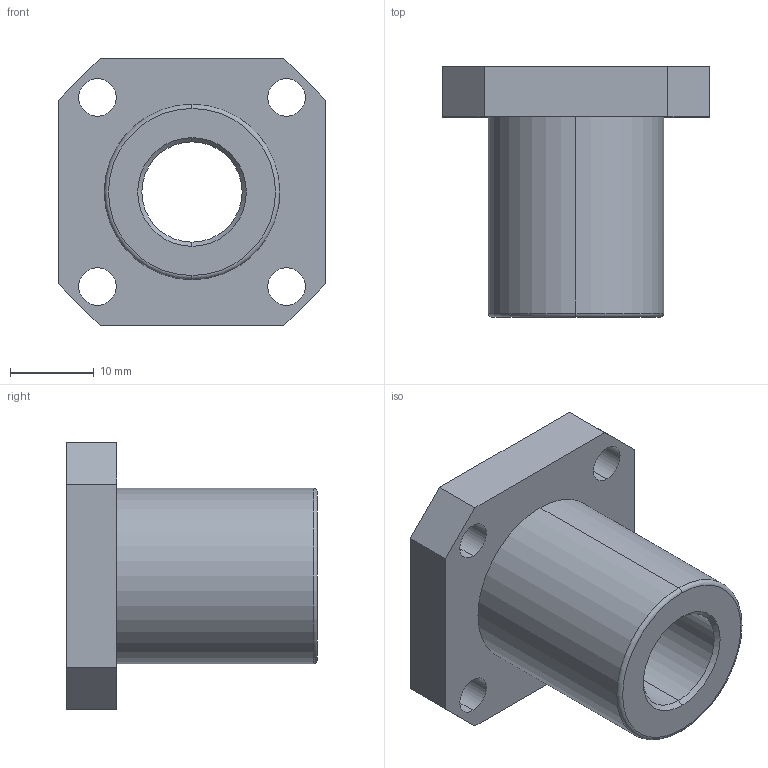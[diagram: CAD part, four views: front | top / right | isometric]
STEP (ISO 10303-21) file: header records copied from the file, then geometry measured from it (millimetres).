
FILE_DESCRIPTION (( 'STEP AP203' ), '1' );
FILE_NAME ('LMK12UU.STEP', '2017-08-10T13:06:29', ( '' ), ( '' ), 'SwSTEP 2.0', 'SolidWorks 2017', '' );
FILE_SCHEMA (( 'CONFIG_CONTROL_DESIGN' ));
Length unit declared in the file: millimetre
Products named in the file (1): LMK12UU
Bounding box: 32 x 30 x 32 mm (x, y, z)
Volume: 10370.3 mm3; surface area: 5336 mm2
Topology: 1 solids, 1 shells, 111 faces, 299 edges, 198 vertices
Faces by surface type: plane 56, bspline 32, cylinder 19, cone 2, torus 2
Entity records: 7362 total; most frequent: CARTESIAN_POINT 4717, ORIENTED_EDGE 598, DIRECTION 426, EDGE_CURVE 299, VERTEX_POINT 198, AXIS2_PLACEMENT_3D 162, EDGE_LOOP 129, B_SPLINE_CURVE_WITH_KNOTS 115
